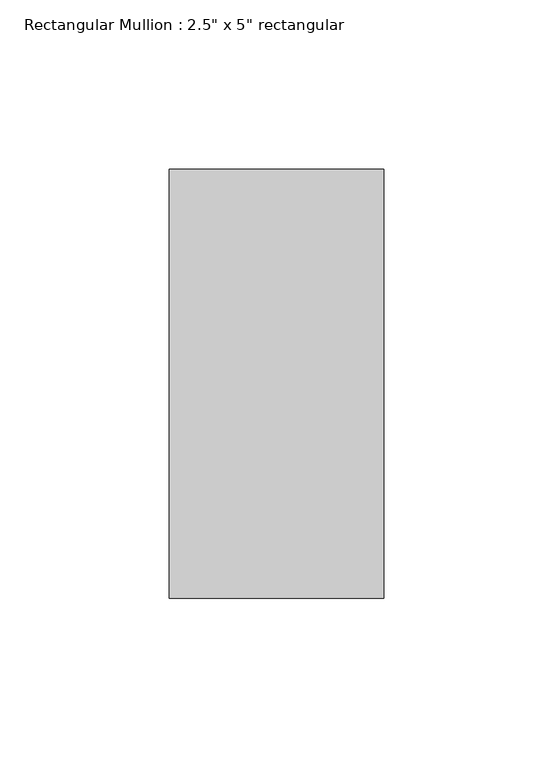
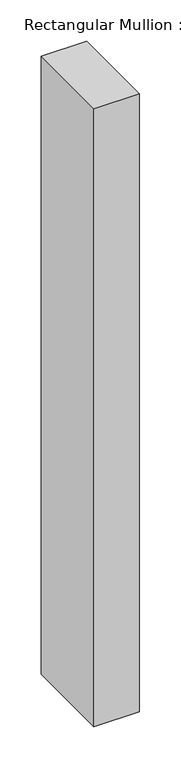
"""IFC4 building model written with IfcOpenShell, lengths in millimetres: member geometry."""

from ifc_helpers import new_model, si_unit, frame, origin, place, context, project, spatial, polyline, outline, extrude, source, transform, mapped, element, save


def member_2917896d(model_context):
    return source(origin(), model_context, "Body", "SweptSolid", [
        extrude(outline(polyline([(31.75, 63.5), (31.75, -63.5), (-31.75, -63.5), (-31.75, 63.5), (31.75, 63.5)])), frame((0.0, 0.0, -911.6785714), z_axis=(0.0, 0.0, 1.0), x_axis=(1.0, 0.0, 0.0)), (0.0, 0.0, 1.0), 911.6785714),
    ])


if __name__ == "__main__":
    model = new_model("IFC4")
    model_context = context("Model", 3, world=origin())
    ifc_project = project(units=[si_unit("LENGTHUNIT", "METRE", prefix="MILLI")], contexts=[model_context])
    site = spatial("IfcSite", under=ifc_project)
    building = spatial("IfcBuilding", under=site)
    placement = place(None, origin())
    member_shape = member_2917896d(model_context)
    element("IfcMember", 1, ObjectType="Rectangular Mullion : 2.5\" x 5\" rectangular", at=placement, inside=building, context=model_context, shape_type="MappedRepresentation", body=[
        mapped(member_shape, transform((0.0, 0.0, 0.0), x_axis=(1.0, 0.0, 0.0), y_axis=(0.0, 1.0, 0.0), z_axis=(0.0, 0.0, 1.0))),
    ])
    save(model, "model.ifc")
